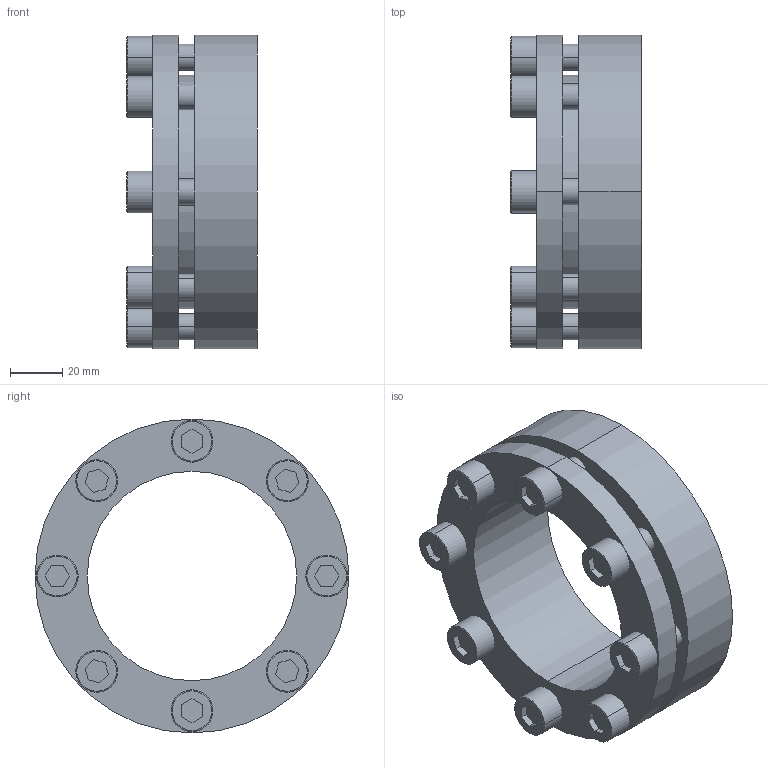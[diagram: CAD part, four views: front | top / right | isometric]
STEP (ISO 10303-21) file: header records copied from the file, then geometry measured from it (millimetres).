
FILE_DESCRIPTION (( 'STEP AP203' ), '1' );
FILE_NAME ('SDS-80.step', '2009-09-29T16:22:47', ( 'USER' ), ( 'HOME' ), 'SwSTEP 2.0', 'SolidWorks 2007', '' );
FILE_SCHEMA (( 'CONFIG_CONTROL_DESIGN' ));
Length unit declared in the file: millimetre
Products named in the file (1): SDS-80
Bounding box: 50 x 120 x 120 mm (x, y, z)
Volume: 241852.6 mm3; surface area: 68963 mm2
Topology: 9 solids, 9 shells, 172 faces, 392 edges, 256 vertices
Faces by surface type: plane 84, cylinder 72, cone 16
Entity records: 4997 total; most frequent: DIRECTION 898, CARTESIAN_POINT 821, ORIENTED_EDGE 784, EDGE_CURVE 392, AXIS2_PLACEMENT_3D 333, VERTEX_POINT 256, VECTOR 232, LINE 232
